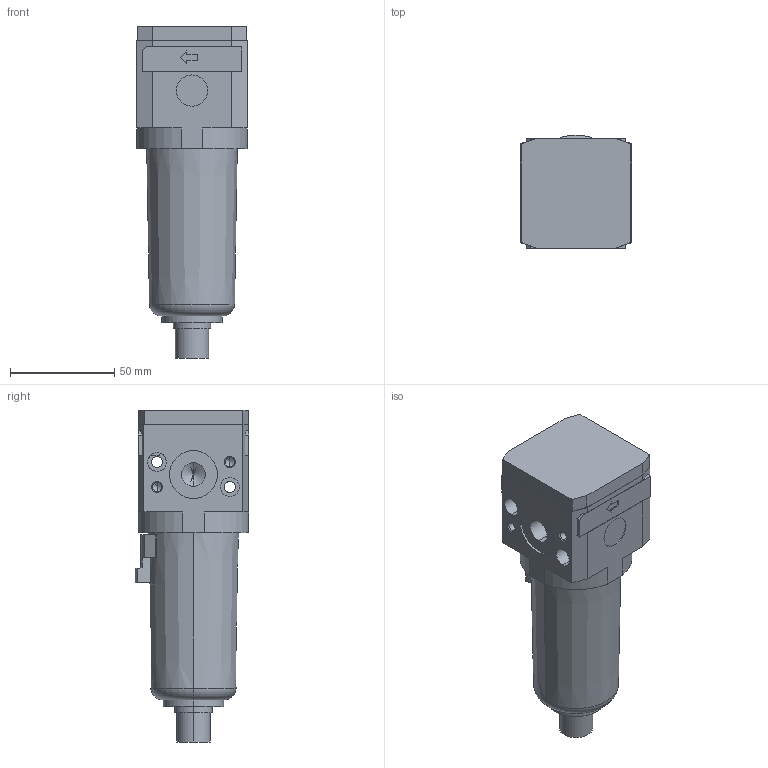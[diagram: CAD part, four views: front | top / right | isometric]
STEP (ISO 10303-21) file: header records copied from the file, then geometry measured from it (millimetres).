
FILE_DESCRIPTION((''),'2;1');
FILE_NAME('I:\DOC-EDP\Lib-3d\FRL\17201A_.stp','2003-06-16T14:53:49',('maffial1'),(''),'Autodesk Inventor 7','Autodesk Inventor 7','');
FILE_SCHEMA(('AUTOMOTIVE_DESIGN { 1 0 10303 214 1 1 1 1 }'));
Length unit declared in the file: millimetre
Products named in the file (1): 17201A_
Bounding box: 53 x 54.39 x 159.5 mm (x, y, z)
Volume: 266321 mm3; surface area: 38929.7 mm2
Topology: 1 solids, 3 shells, 173 faces, 430 edges, 272 vertices
Faces by surface type: plane 70, bspline 54, cylinder 34, cone 13, torus 2
Entity records: 5441 total; most frequent: CARTESIAN_POINT 1418, ORIENTED_EDGE 836, DIRECTION 788, EDGE_CURVE 418, VECTOR 288, LINE 288, VERTEX_POINT 272, AXIS2_PLACEMENT_3D 250
